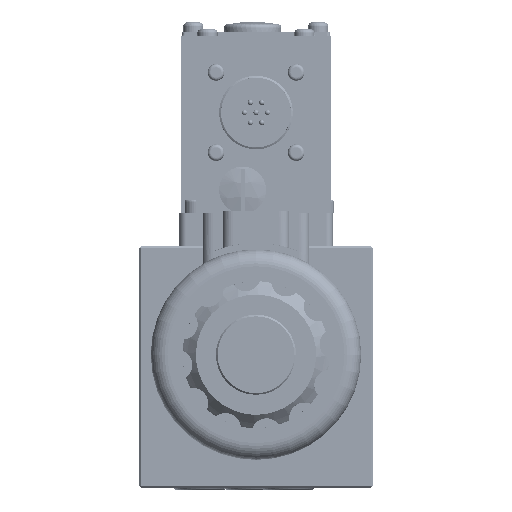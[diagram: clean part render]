
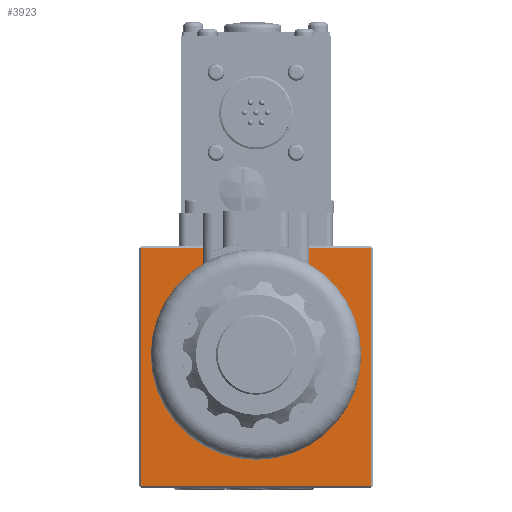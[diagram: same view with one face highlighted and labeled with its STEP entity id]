
A CAD part, left-side view. The second image highlights one B-rep face of the part: STEP entity #3923.
In plain terms, the highlighted planar face has unit normal (-1, 0, 0).
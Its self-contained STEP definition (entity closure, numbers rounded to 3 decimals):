
#3923=ADVANCED_FACE('',(#6291,#6292,#6293,#6294,#6295,#6296),#4892,.T.);
#4892=PLANE('',#23487);
#5748=CIRCLE('',#23482,3.25);
#5749=CIRCLE('',#23483,1.8);
#5750=CIRCLE('',#23484,1.8);
#5751=CIRCLE('',#23485,1.8);
#5752=CIRCLE('',#23486,16.);
#6291=FACE_BOUND('',#7392,.T.);
#6292=FACE_BOUND('',#7393,.T.);
#6293=FACE_BOUND('',#7394,.T.);
#6294=FACE_BOUND('',#7395,.T.);
#6295=FACE_BOUND('',#7396,.T.);
#6296=FACE_BOUND('',#7397,.T.);
#7392=EDGE_LOOP('',(#11204));
#7393=EDGE_LOOP('',(#11205,#11206,#11207,#11208));
#7394=EDGE_LOOP('',(#11209));
#7395=EDGE_LOOP('',(#11210));
#7396=EDGE_LOOP('',(#11211));
#7397=EDGE_LOOP('',(#11212));
#11204=ORIENTED_EDGE('',*,*,#17488,.T.);
#11205=ORIENTED_EDGE('',*,*,#17489,.T.);
#11206=ORIENTED_EDGE('',*,*,#17490,.T.);
#11207=ORIENTED_EDGE('',*,*,#17491,.T.);
#11208=ORIENTED_EDGE('',*,*,#17492,.T.);
#11209=ORIENTED_EDGE('',*,*,#17493,.T.);
#11210=ORIENTED_EDGE('',*,*,#17494,.T.);
#11211=ORIENTED_EDGE('',*,*,#17495,.T.);
#11212=ORIENTED_EDGE('',*,*,#17496,.T.);
#14984=VERTEX_POINT('',#75153);
#14985=VERTEX_POINT('',#75155);
#14986=VERTEX_POINT('',#75156);
#14987=VERTEX_POINT('',#75158);
#14988=VERTEX_POINT('',#75160);
#14989=VERTEX_POINT('',#75163);
#14990=VERTEX_POINT('',#75165);
#14991=VERTEX_POINT('',#75167);
#14992=VERTEX_POINT('',#75169);
#17488=EDGE_CURVE('',#14984,#14984,#5748,.T.);
#17489=EDGE_CURVE('',#14985,#14986,#19632,.T.);
#17490=EDGE_CURVE('',#14986,#14987,#19633,.T.);
#17491=EDGE_CURVE('',#14987,#14988,#19634,.T.);
#17492=EDGE_CURVE('',#14988,#14985,#19635,.T.);
#17493=EDGE_CURVE('',#14989,#14989,#5749,.T.);
#17494=EDGE_CURVE('',#14990,#14990,#5750,.T.);
#17495=EDGE_CURVE('',#14991,#14991,#5751,.T.);
#17496=EDGE_CURVE('',#14992,#14992,#5752,.T.);
#19632=LINE('',#75154,#21357);
#19633=LINE('',#75157,#21358);
#19634=LINE('',#75159,#21359);
#19635=LINE('',#75161,#21360);
#21357=VECTOR('',#27459,1.);
#21358=VECTOR('',#27460,1.);
#21359=VECTOR('',#27461,1.);
#21360=VECTOR('',#27462,1.);
#23482=AXIS2_PLACEMENT_3D('',#75152,#27457,#27458);
#23483=AXIS2_PLACEMENT_3D('',#75162,#27463,#27464);
#23484=AXIS2_PLACEMENT_3D('',#75164,#27465,#27466);
#23485=AXIS2_PLACEMENT_3D('',#75166,#27467,#27468);
#23486=AXIS2_PLACEMENT_3D('',#75168,#27469,#27470);
#23487=AXIS2_PLACEMENT_3D('',#75170,#27471,#27472);
#27457=DIRECTION('',(1.,0.,0.));
#27458=DIRECTION('',(0.,0.,-1.));
#27459=DIRECTION('',(0.,1.,0.));
#27460=DIRECTION('',(0.,0.,-1.));
#27461=DIRECTION('',(0.,-1.,0.));
#27462=DIRECTION('',(0.,0.,1.));
#27463=DIRECTION('',(1.,0.,0.));
#27464=DIRECTION('',(0.,0.,-1.));
#27465=DIRECTION('',(1.,0.,0.));
#27466=DIRECTION('',(0.,0.,-1.));
#27467=DIRECTION('',(1.,0.,0.));
#27468=DIRECTION('',(0.,0.,-1.));
#27469=DIRECTION('',(1.,0.,0.));
#27470=DIRECTION('',(0.,0.,1.));
#27471=DIRECTION('',(-1.,0.,0.));
#27472=DIRECTION('',(0.,0.,-1.));
#75152=CARTESIAN_POINT('',(92.2,-22.996,-17.));
#75153=CARTESIAN_POINT('',(92.2,-22.996,-20.25));
#75154=CARTESIAN_POINT('',(92.2,0.,-0.7));
#75155=CARTESIAN_POINT('',(92.2,-69.3,-0.7));
#75156=CARTESIAN_POINT('',(92.2,-0.7,-0.7));
#75157=CARTESIAN_POINT('',(92.2,-0.7,-72.5));
#75158=CARTESIAN_POINT('',(92.2,-0.7,-71.8));
#75159=CARTESIAN_POINT('',(92.2,-70.,-71.8));
#75160=CARTESIAN_POINT('',(92.2,-69.3,-71.8));
#75161=CARTESIAN_POINT('',(92.2,-69.3,-72.5));
#75162=CARTESIAN_POINT('',(92.2,-16.,-32.5));
#75163=CARTESIAN_POINT('',(92.2,-16.,-34.3));
#75164=CARTESIAN_POINT('',(92.2,-54.,-32.5));
#75165=CARTESIAN_POINT('',(92.2,-54.,-34.3));
#75166=CARTESIAN_POINT('',(92.2,-35.,-51.5));
#75167=CARTESIAN_POINT('',(92.2,-35.,-53.3));
#75168=CARTESIAN_POINT('',(92.2,-35.,-32.5));
#75169=CARTESIAN_POINT('',(92.2,-35.,-16.5));
#75170=CARTESIAN_POINT('',(92.2,0.,-72.5));
